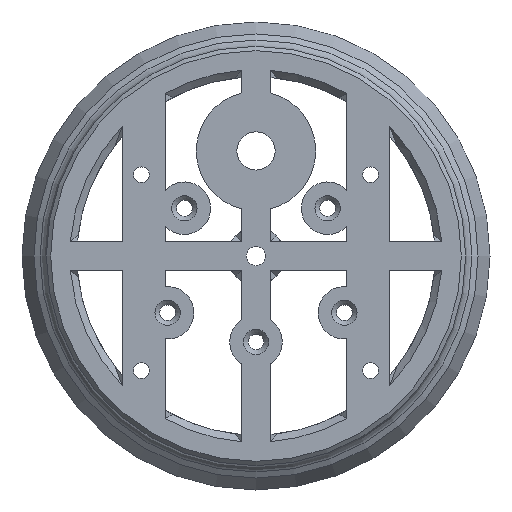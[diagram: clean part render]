
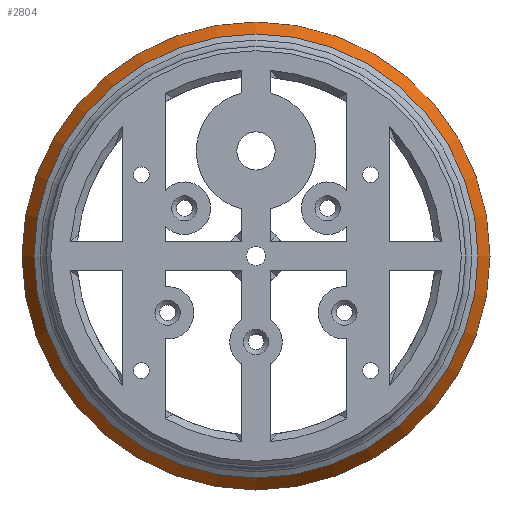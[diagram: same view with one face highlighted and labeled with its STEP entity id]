
A CAD part, front view. The second image highlights one B-rep face of the part: STEP entity #2804.
In plain terms, the highlighted conical face has half-angle 30 degrees and reference radius 47.75 mm.
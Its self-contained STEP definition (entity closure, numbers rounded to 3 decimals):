
#40=CONICAL_SURFACE('',#3150,47.75,0.524);
#337=FACE_OUTER_BOUND('',#529,.T.);
#529=EDGE_LOOP('',(#2580,#2581,#2582,#2583));
#728=LINE('',#4988,#926);
#926=VECTOR('',#3995,47.75);
#1075=CIRCLE('',#3149,49.);
#1076=CIRCLE('',#3151,46.5);
#1363=VERTEX_POINT('',#4982);
#1364=VERTEX_POINT('',#4986);
#1769=EDGE_CURVE('',#1363,#1363,#1075,.T.);
#1771=EDGE_CURVE('',#1364,#1364,#1076,.T.);
#1772=EDGE_CURVE('',#1364,#1363,#728,.T.);
#2580=ORIENTED_EDGE('',*,*,#1771,.F.);
#2581=ORIENTED_EDGE('',*,*,#1772,.T.);
#2582=ORIENTED_EDGE('',*,*,#1769,.T.);
#2583=ORIENTED_EDGE('',*,*,#1772,.F.);
#2804=ADVANCED_FACE('',(#337),#40,.T.);
#3149=AXIS2_PLACEMENT_3D('',#4983,#3988,#3989);
#3150=AXIS2_PLACEMENT_3D('',#4985,#3991,#3992);
#3151=AXIS2_PLACEMENT_3D('',#4987,#3993,#3994);
#3988=DIRECTION('center_axis',(0.,-1.,0.));
#3989=DIRECTION('ref_axis',(1.,0.,0.));
#3991=DIRECTION('center_axis',(0.,1.,0.));
#3992=DIRECTION('ref_axis',(1.,0.,0.));
#3993=DIRECTION('center_axis',(0.,-1.,0.));
#3994=DIRECTION('ref_axis',(1.,0.,0.));
#3995=DIRECTION('',(-0.5,0.866,0.));
#4982=CARTESIAN_POINT('',(-49.,9.,0.));
#4983=CARTESIAN_POINT('Origin',(0.,9.,0.));
#4985=CARTESIAN_POINT('Origin',(0.,6.835,0.));
#4986=CARTESIAN_POINT('',(-46.5,4.67,0.));
#4987=CARTESIAN_POINT('Origin',(0.,4.67,0.));
#4988=CARTESIAN_POINT('',(-47.75,6.835,0.));
